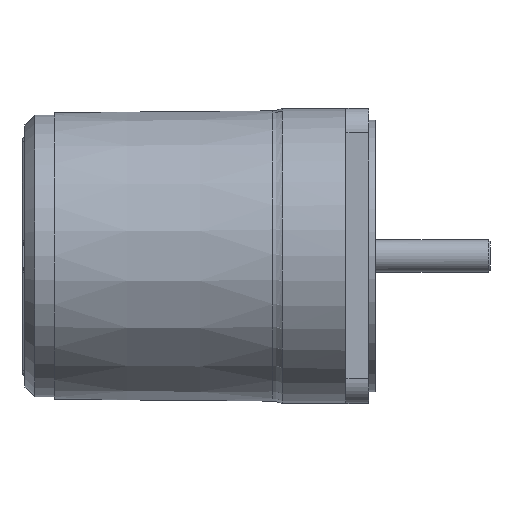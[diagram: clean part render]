
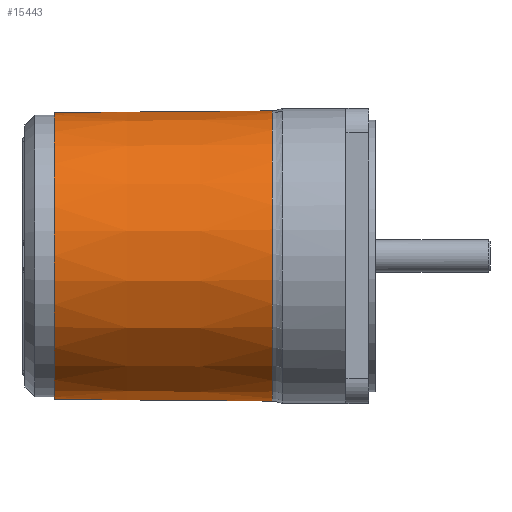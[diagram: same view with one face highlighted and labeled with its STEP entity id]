
A CAD part, top view. The second image highlights one B-rep face of the part: STEP entity #15443.
In plain terms, the highlighted conical face has half-angle 0.48 degrees and reference radius 44.029 mm.
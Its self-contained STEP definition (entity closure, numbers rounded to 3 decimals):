
#108=B_SPLINE_CURVE_WITH_KNOTS('',3,(#25697,#25698,#25699,#25700),
 .UNSPECIFIED.,.F.,.F.,(4,4),(3.256,3.306),
 .UNSPECIFIED.);
#109=B_SPLINE_CURVE_WITH_KNOTS('',3,(#25702,#25703,#25704,#25705),
 .UNSPECIFIED.,.F.,.F.,(4,4),(-3.256,0.),.UNSPECIFIED.);
#113=B_SPLINE_CURVE_WITH_KNOTS('',3,(#25784,#25785,#25786,#25787),
 .UNSPECIFIED.,.F.,.F.,(4,4),(-6.954,-3.698),
 .UNSPECIFIED.);
#114=B_SPLINE_CURVE_WITH_KNOTS('',3,(#25788,#25789,#25790,#25791),
 .UNSPECIFIED.,.F.,.F.,(4,4),(3.648,3.698),
 .UNSPECIFIED.);
#337=FACE_BOUND('',#2970,.T.);
#386=CONICAL_SURFACE('',#16774,44.029,0.48);
#1222=CIRCLE('',#16758,44.031);
#1230=CIRCLE('',#16775,44.308);
#1231=CIRCLE('',#16776,43.75);
#2021=FACE_OUTER_BOUND('',#2969,.T.);
#2969=EDGE_LOOP('',(#12411,#12412,#12413,#12414,#12415,#12416));
#2970=EDGE_LOOP('',(#12417));
#6813=VERTEX_POINT('',#25347);
#6819=VERTEX_POINT('',#25461);
#6834=VERTEX_POINT('',#25696);
#6835=VERTEX_POINT('',#25701);
#6840=VERTEX_POINT('',#25781);
#6841=VERTEX_POINT('',#25783);
#6845=VERTEX_POINT('',#25844);
#8724=EDGE_CURVE('',#6813,#6819,#1222,.T.);
#8747=EDGE_CURVE('',#6834,#6819,#108,.T.);
#8748=EDGE_CURVE('',#6834,#6835,#109,.T.);
#8758=EDGE_CURVE('',#6840,#6841,#113,.T.);
#8759=EDGE_CURVE('',#6813,#6841,#114,.T.);
#8766=EDGE_CURVE('',#6835,#6840,#1230,.T.);
#8767=EDGE_CURVE('',#6845,#6845,#1231,.T.);
#12411=ORIENTED_EDGE('',*,*,#8759,.T.);
#12412=ORIENTED_EDGE('',*,*,#8758,.F.);
#12413=ORIENTED_EDGE('',*,*,#8766,.F.);
#12414=ORIENTED_EDGE('',*,*,#8748,.F.);
#12415=ORIENTED_EDGE('',*,*,#8747,.T.);
#12416=ORIENTED_EDGE('',*,*,#8724,.F.);
#12417=ORIENTED_EDGE('',*,*,#8767,.T.);
#15443=ADVANCED_FACE('',(#2021,#337),#386,.T.);
#16758=AXIS2_PLACEMENT_3D('',#25462,#20277,#20278);
#16774=AXIS2_PLACEMENT_3D('',#25842,#20321,#20322);
#16775=AXIS2_PLACEMENT_3D('',#25843,#20323,#20324);
#16776=AXIS2_PLACEMENT_3D('',#25845,#20325,#20326);
#20277=DIRECTION('center_axis',(1.,0.,0.));
#20278=DIRECTION('ref_axis',(0.,0.,-1.));
#20321=DIRECTION('center_axis',(1.,0.,0.));
#20322=DIRECTION('ref_axis',(0.,1.,0.));
#20323=DIRECTION('center_axis',(1.,0.,0.));
#20324=DIRECTION('ref_axis',(0.,1.,0.));
#20325=DIRECTION('center_axis',(1.,0.,0.));
#20326=DIRECTION('ref_axis',(0.,1.,0.));
#25347=CARTESIAN_POINT('',(42.504,-29.21,-32.947));
#25461=CARTESIAN_POINT('',(42.504,29.21,-32.947));
#25462=CARTESIAN_POINT('Origin',(42.504,0.,
0.));
#25696=CARTESIAN_POINT('',(43.,29.21,-32.952));
#25697=CARTESIAN_POINT('Ctrl Pts',(43.,29.21,-32.952));
#25698=CARTESIAN_POINT('Ctrl Pts',(42.835,29.21,-32.95));
#25699=CARTESIAN_POINT('Ctrl Pts',(42.669,29.21,-32.949));
#25700=CARTESIAN_POINT('Ctrl Pts',(42.504,29.21,-32.947));
#25701=CARTESIAN_POINT('',(75.559,29.222,-33.306));
#25702=CARTESIAN_POINT('Ctrl Pts',(43.,29.21,-32.952));
#25703=CARTESIAN_POINT('Ctrl Pts',(53.853,29.214,-33.07));
#25704=CARTESIAN_POINT('Ctrl Pts',(64.706,29.218,-33.188));
#25705=CARTESIAN_POINT('Ctrl Pts',(75.559,29.222,-33.306));
#25781=CARTESIAN_POINT('',(75.559,-29.222,-33.306));
#25783=CARTESIAN_POINT('',(43.,-29.21,-32.952));
#25784=CARTESIAN_POINT('Ctrl Pts',(75.559,-29.222,-33.306));
#25785=CARTESIAN_POINT('Ctrl Pts',(64.706,-29.218,-33.188));
#25786=CARTESIAN_POINT('Ctrl Pts',(53.853,-29.214,-33.07));
#25787=CARTESIAN_POINT('Ctrl Pts',(43.,-29.21,-32.952));
#25788=CARTESIAN_POINT('Ctrl Pts',(42.504,-29.21,-32.947));
#25789=CARTESIAN_POINT('Ctrl Pts',(42.669,-29.21,-32.949));
#25790=CARTESIAN_POINT('Ctrl Pts',(42.835,-29.21,-32.95));
#25791=CARTESIAN_POINT('Ctrl Pts',(43.,-29.21,-32.952));
#25842=CARTESIAN_POINT('Origin',(42.279,0.,
0.));
#25843=CARTESIAN_POINT('Origin',(75.559,0.,
0.));
#25844=CARTESIAN_POINT('',(9.,43.75,0.));
#25845=CARTESIAN_POINT('Origin',(9.,0.,
0.));
